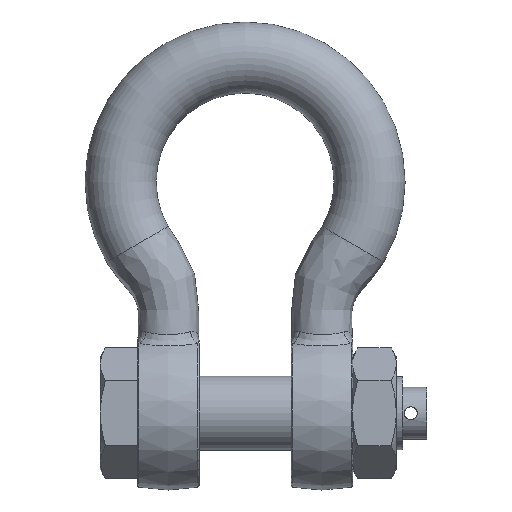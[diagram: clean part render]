
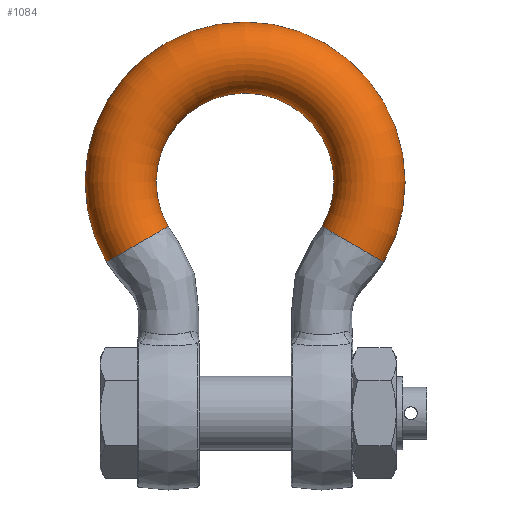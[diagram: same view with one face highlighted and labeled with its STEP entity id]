
A CAD part, top view. The second image highlights one B-rep face of the part: STEP entity #1084.
In plain terms, the highlighted toroidal (fillet/blend) face has major radius 77 mm and minor radius 22 mm.
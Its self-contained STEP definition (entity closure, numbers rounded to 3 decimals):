
#127=TOROIDAL_SURFACE('',#1235,77.,22.);
#195=FACE_OUTER_BOUND('',#268,.T.);
#268=EDGE_LOOP('',(#855,#856,#857,#858,#859,#860));
#410=CIRCLE('',#1236,22.);
#411=CIRCLE('',#1237,22.);
#412=CIRCLE('',#1238,55.);
#413=CIRCLE('',#1239,22.);
#414=CIRCLE('',#1240,22.);
#491=VERTEX_POINT('',#3133);
#492=VERTEX_POINT('',#3134);
#493=VERTEX_POINT('',#3137);
#494=VERTEX_POINT('',#3139);
#620=EDGE_CURVE('',#491,#492,#410,.T.);
#621=EDGE_CURVE('',#492,#491,#411,.T.);
#622=EDGE_CURVE('',#492,#493,#412,.T.);
#623=EDGE_CURVE('',#493,#494,#413,.T.);
#624=EDGE_CURVE('',#494,#493,#414,.T.);
#855=ORIENTED_EDGE('',*,*,#620,.F.);
#856=ORIENTED_EDGE('',*,*,#621,.F.);
#857=ORIENTED_EDGE('',*,*,#622,.T.);
#858=ORIENTED_EDGE('',*,*,#623,.T.);
#859=ORIENTED_EDGE('',*,*,#624,.T.);
#860=ORIENTED_EDGE('',*,*,#622,.F.);
#1084=ADVANCED_FACE('',(#195),#127,.T.);
#1235=AXIS2_PLACEMENT_3D('',#3132,#1422,#1423);
#1236=AXIS2_PLACEMENT_3D('',#3135,#1424,#1425);
#1237=AXIS2_PLACEMENT_3D('',#3136,#1426,#1427);
#1238=AXIS2_PLACEMENT_3D('',#3138,#1428,#1429);
#1239=AXIS2_PLACEMENT_3D('',#3140,#1430,#1431);
#1240=AXIS2_PLACEMENT_3D('',#3141,#1432,#1433);
#1422=DIRECTION('center_axis',(0.,0.,1.));
#1423=DIRECTION('ref_axis',(0.,1.,0.));
#1424=DIRECTION('center_axis',(0.5,-0.866,0.));
#1425=DIRECTION('ref_axis',(-0.866,-0.5,0.));
#1426=DIRECTION('center_axis',(0.5,-0.866,0.));
#1427=DIRECTION('ref_axis',(-0.866,-0.5,0.));
#1428=DIRECTION('center_axis',(0.,0.,-1.));
#1429=DIRECTION('ref_axis',(0.,1.,0.));
#1430=DIRECTION('center_axis',(0.5,0.866,0.));
#1431=DIRECTION('ref_axis',(0.866,-0.5,0.));
#1432=DIRECTION('center_axis',(0.5,0.866,0.));
#1433=DIRECTION('ref_axis',(0.866,-0.5,0.));
#3132=CARTESIAN_POINT('Origin',(0.,143.,0.));
#3133=CARTESIAN_POINT('',(-85.737,93.5,0.));
#3134=CARTESIAN_POINT('',(-47.631,115.5,0.));
#3135=CARTESIAN_POINT('Origin',(-66.684,104.5,0.));
#3136=CARTESIAN_POINT('Origin',(-66.684,104.5,0.));
#3137=CARTESIAN_POINT('',(47.631,115.5,0.));
#3138=CARTESIAN_POINT('Origin',(0.,143.,0.));
#3139=CARTESIAN_POINT('',(85.737,93.5,0.));
#3140=CARTESIAN_POINT('Origin',(66.684,104.5,0.));
#3141=CARTESIAN_POINT('Origin',(66.684,104.5,0.));
